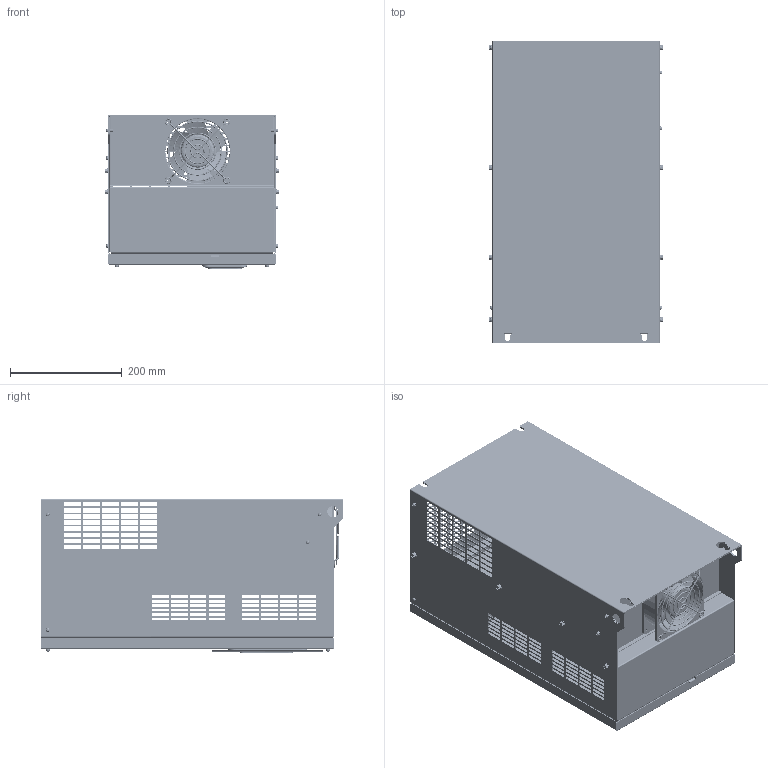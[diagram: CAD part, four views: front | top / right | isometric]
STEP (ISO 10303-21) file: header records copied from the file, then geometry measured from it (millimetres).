
FILE_DESCRIPTION((''),'2;1');
FILE_NAME('000_MVT553ZGB-520_ASM','2021-12-13T',('h2718'),(''),'CREO PARAMETRIC BY PTC INC, 2015290','CREO PARAMETRIC BY PTC INC, 2015290','');
FILE_SCHEMA(('AP203_CONFIGURATION_CONTROLLED_3D_DESIGN_OF_MECHANICAL_PARTS_AND_ASSEMBLIES_MIM_LF { 1 0 10303 403 2 1 2 }'));
Products named in the file (29): FAN-120X38_1; FAN-120-COVER_1_SW0001; QJ001_MVT553ZGB_ASM_3_ASM; 20350377-ZP_ASM_2_SW0001; DZ-001_SW0001; 20311907-LJ_3; 20311908-LJ_3; 20110282-ZP_ASM_3_ASM; 20311916-LJ_1; 20311913-LJ_3; 20311920-LJ_ASM_1_SW0001; SIT2013ADD6; 20190212-ZP_ASM_3_ASM; 520-KZB-20211209; 520-AJZJ-02-20211209; 20212503_S; 20441163; 001-520-ZUJIAN_ASM; 21030044_2; 20066001_1; GB95-2002_8_1; GB93-87_8_N_1; GB6170-2000_M8_GB1_A_8_2; GB9074_13-88_M8X20_GB_2; GB9074_8-88_M4X12_GBXNHJ_1; GB9074_8-88_M4X10_GB_2; GB9074_13-88_M5X12_GB_2; FL001_MVT553ZGB_ASM_4_ASM; 000_MVT553ZGB-520_ASM
Assembly tree (82 placements, depth 4):
  000_MVT553ZGB-520_ASM
    QJ001_MVT553ZGB_ASM_3_ASM
      FAN-120X38_1
      FAN-120-COVER_1_SW0001
    20350377-ZP_ASM_2_SW0001
    DZ-001_SW0001
    20190212-ZP_ASM_3_ASM
      20110282-ZP_ASM_3_ASM
        20311907-LJ_3
        20311908-LJ_3
      20311916-LJ_1
      20311913-LJ_3
      20311920-LJ_ASM_1_SW0001
      SIT2013ADD6
    001-520-ZUJIAN_ASM
      520-KZB-20211209
      520-AJZJ-02-20211209
      20212503_S
      20441163
    FL001_MVT553ZGB_ASM_4_ASM
      21030044_2  x2
      20066001_1  x3
      GB95-2002_8_1  x9
      GB93-87_8_N_1  x9
      GB6170-2000_M8_GB1_A_8_2  x9
      GB9074_13-88_M8X20_GB_2  x2
      GB9074_8-88_M4X12_GBXNHJ_1  x4
      GB9074_8-88_M4X10_GB_2  x17
      GB9074_13-88_M5X12_GB_2  x8
Bounding box: 311.6 x 542 x 276.68 mm (x, y, z)
Volume: 1814617 mm3; surface area: 2168259.9 mm2
Topology: 120 solids, 138 shells, 14406 faces, 39872 edges, 25929 vertices
Faces by surface type: plane 8296, cylinder 3818, cone 927, bspline 902, torus 250, extrusion 120, sphere 67, revolution 26
Entity records: 732971 total; most frequent: CARTESIAN_POINT 268130, ORIENTED_EDGE 72040, DIRECTION 63212, PRESENTATION_STYLE_ASSIGNMENT 39278, STYLED_ITEM 36778, CURVE_STYLE 36260, EDGE_CURVE 36049, VECTOR 24735
